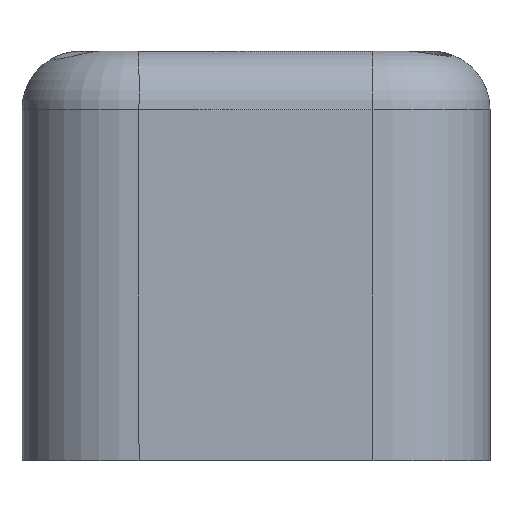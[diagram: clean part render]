
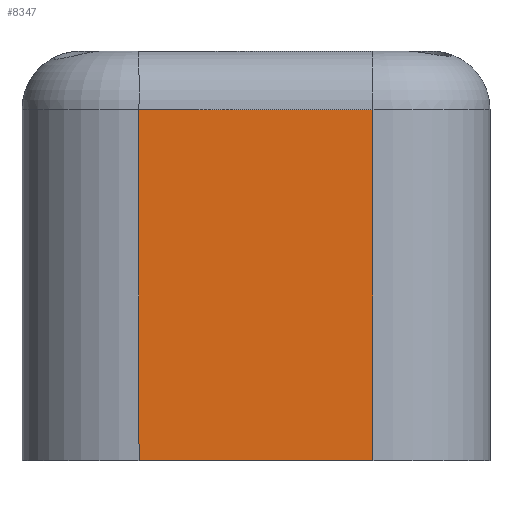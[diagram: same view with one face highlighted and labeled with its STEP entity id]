
A CAD part, left-side view. The second image highlights one B-rep face of the part: STEP entity #8347.
In plain terms, the highlighted planar face has unit normal (-1, 0, 0).
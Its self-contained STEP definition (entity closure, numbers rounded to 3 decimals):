
#6734=CARTESIAN_POINT('Vertex',(-40.,20.,107.)) ;
#6756=CARTESIAN_POINT('Line Origine',(-40.,0.,107.)) ;
#6760=CARTESIAN_POINT('Vertex',(-40.,-20.,107.)) ;
#8209=CARTESIAN_POINT('Vertex',(-40.,-20.,47.)) ;
#8212=CARTESIAN_POINT('Line Origine',(-40.,0.,47.)) ;
#8216=CARTESIAN_POINT('Vertex',(-40.,20.,47.)) ;
#8301=CARTESIAN_POINT('Line Origine',(-40.,-20.,58.608)) ;
#8305=CARTESIAN_POINT('Vertex',(-40.,-20.,50.)) ;
#8308=CARTESIAN_POINT('Line Origine',(-40.,-20.,58.608)) ;
#8322=CARTESIAN_POINT('Axis2P3D Location',(-40.,0.,0.)) ;
#8327=CARTESIAN_POINT('Line Origine',(-40.,20.,78.5)) ;
#8331=CARTESIAN_POINT('Vertex',(-40.,20.,50.)) ;
#8334=CARTESIAN_POINT('Line Origine',(-40.,20.,48.5)) ;
#6758=VECTOR('Line Direction',#6757,1.) ;
#8214=VECTOR('Line Direction',#8213,1.) ;
#8303=VECTOR('Line Direction',#8302,1.) ;
#8310=VECTOR('Line Direction',#8309,1.) ;
#8329=VECTOR('Line Direction',#8328,1.) ;
#8336=VECTOR('Line Direction',#8335,1.) ;
#6757=DIRECTION('Vector Direction',(0.,-1.,0.)) ;
#8213=DIRECTION('Vector Direction',(0.,1.,0.)) ;
#8302=DIRECTION('Vector Direction',(0.,0.,-1.)) ;
#8309=DIRECTION('Vector Direction',(0.,0.,-1.)) ;
#8323=DIRECTION('Axis2P3D Direction',(1.,0.,0.)) ;
#8324=DIRECTION('Axis2P3D XDirection',(0.,1.,0.)) ;
#8328=DIRECTION('Vector Direction',(0.,0.,-1.)) ;
#8335=DIRECTION('Vector Direction',(0.,0.,1.)) ;
#8325=AXIS2_PLACEMENT_3D('Plane Axis2P3D',#8322,#8323,#8324) ;
#6759=LINE('Line',#6756,#6758) ;
#8215=LINE('Line',#8212,#8214) ;
#8304=LINE('Line',#8301,#8303) ;
#8311=LINE('Line',#8308,#8310) ;
#8330=LINE('Line',#8327,#8329) ;
#8337=LINE('Line',#8334,#8336) ;
#8326=PLANE('',#8325) ;
#6762=EDGE_CURVE('',#6735,#6761,#6759,.T.) ;
#8218=EDGE_CURVE('',#8210,#8217,#8215,.T.) ;
#8307=EDGE_CURVE('',#6761,#8306,#8304,.T.) ;
#8312=EDGE_CURVE('',#8210,#8306,#8311,.F.) ;
#8333=EDGE_CURVE('',#6735,#8332,#8330,.T.) ;
#8338=EDGE_CURVE('',#8217,#8332,#8337,.T.) ;
#8340=ORIENTED_EDGE('',*,*,#8307,.F.) ;
#8341=ORIENTED_EDGE('',*,*,#6762,.F.) ;
#8342=ORIENTED_EDGE('',*,*,#8333,.T.) ;
#8343=ORIENTED_EDGE('',*,*,#8338,.F.) ;
#8344=ORIENTED_EDGE('',*,*,#8218,.F.) ;
#8345=ORIENTED_EDGE('',*,*,#8312,.T.) ;
#8339=EDGE_LOOP('',(#8340,#8341,#8342,#8343,#8344,#8345)) ;
#6735=VERTEX_POINT('',#6734) ;
#6761=VERTEX_POINT('',#6760) ;
#8210=VERTEX_POINT('',#8209) ;
#8217=VERTEX_POINT('',#8216) ;
#8306=VERTEX_POINT('',#8305) ;
#8332=VERTEX_POINT('',#8331) ;
#8347=ADVANCED_FACE('Body.2',(#8346),#8326,.F.) ;
#8346=FACE_OUTER_BOUND('',#8339,.T.) ;
